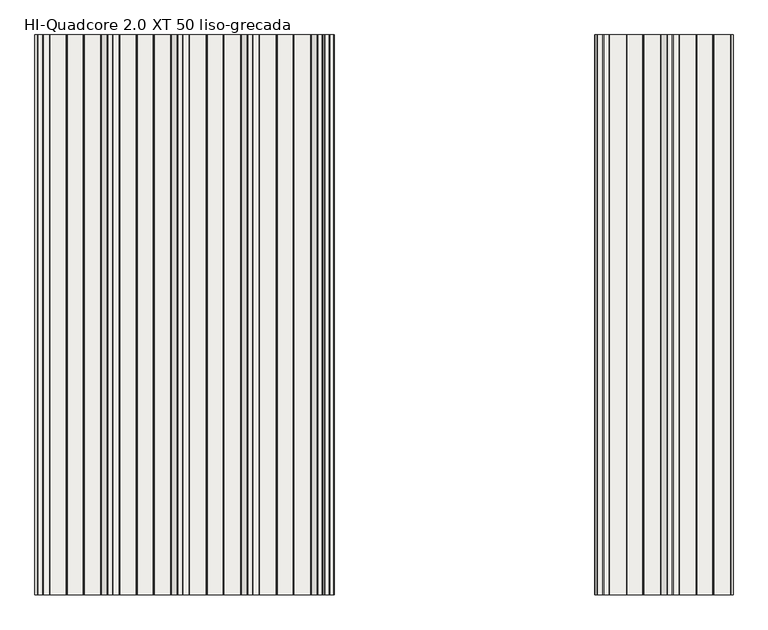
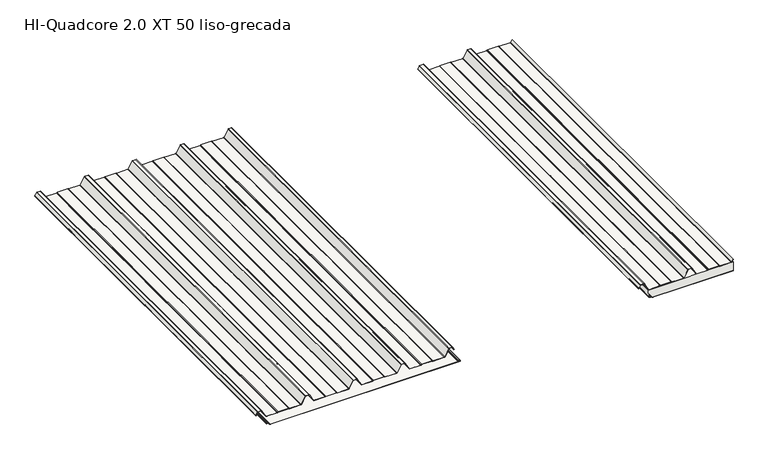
"""IFC4 building model written with IfcOpenShell, lengths in millimetres: slab geometry, HI_QuadCore2.0XT-XT DUAL : HI-Quadcore 2.0 XT 50 liso-grecada."""

from ifc_helpers import new_model, si_unit, point, frame, frame_2d, origin, place, context, project, spatial, polyline, circle_curve, trimmed, segment, composite_curve, outline, extrude, source, transform, mapped, element, save
from ifc_brep_helpers import plane_surface, cylinder_surface, revolved_surface, advanced_brep


def hi_quadcore_2_0_xt_50_liso_grecada_fe10ae16(model_context):
    return source(origin(), model_context, "Body", "SolidModel", [
        extrude(outline(composite_curve([segment(polyline([(88.1649405, 2138.5141429), (73.6579587, 2130.3539656)]), True, "CONTINUOUS"), segment(trimmed(circle_curve(frame_2d((73.0451321, 2131.443435)), 1.25), [point((73.6579587, 2130.3539656))], [point((72.689225, 2132.6416963))], False, "CARTESIAN"), True, "CONTINUOUS"), segment(polyline([(72.689225, 2132.6416963), (75.7359115, 2133.437141), (75.9380053, 2132.663088), (72.9074492, 2131.8718547)]), True, "CONTINUOUS"), segment(trimmed(circle_curve(frame_2d((73.0451321, 2131.443435)), 0.45), [point((72.9074492, 2131.8718547))], [point((73.2657497, 2131.051226))], True, "CARTESIAN"), True, "CONTINUOUS"), segment(polyline([(73.2657497, 2131.051226), (87.7727315, 2139.2114033)]), True, "CONTINUOUS"), segment(trimmed(circle_curve(frame_2d((86.4, 2141.6518148)), 2.8), [point((87.7727315, 2139.2114033))], [point((89.2, 2141.6518148))], True, "CARTESIAN"), True, "CONTINUOUS"), segment(polyline([(89.2, 2141.6518148), (89.2, 2158.9311117)]), True, "CONTINUOUS"), segment(trimmed(circle_curve(frame_2d((86.4, 2158.9311117)), 2.8), [point((89.2, 2158.9311117))], [point((87.5457267, 2161.4859719))], True, "CARTESIAN"), True, "CONTINUOUS"), segment(polyline([(87.5457267, 2161.4859719), (51.2048889, 2181.3052775)]), True, "CONTINUOUS"), segment(trimmed(circle_curve(frame_2d((53.0, 2184.6545425)), 3.8), [point((51.2048889, 2181.3052775))], [point((49.2, 2184.6545425))], False, "CARTESIAN"), True, "CONTINUOUS"), segment(polyline([(49.2, 2184.6545425), (49.2, 2242.4489557)]), True, "CONTINUOUS"), segment(trimmed(circle_curve(frame_2d((53.0, 2242.4489557)), 3.8), [point((49.2, 2242.4489557))], [point((49.6973596, 2244.328468))], False, "CARTESIAN"), True, "CONTINUOUS"), segment(polyline([(49.6973596, 2244.328468), (50.912055, 2246.4629056)]), True, "CONTINUOUS"), segment(trimmed(circle_curve(frame_2d((49.0, 2247.5510443)), 2.2), [point((50.912055, 2246.4629056))], [point((51.2, 2247.5510443))], True, "CARTESIAN"), True, "CONTINUOUS"), segment(polyline([(51.2, 2247.5510443), (51.2, 2302.4489557)]), True, "CONTINUOUS"), segment(trimmed(circle_curve(frame_2d((49.0, 2302.4489557)), 2.2), [point((51.2, 2302.4489557))], [point((50.912055, 2303.5370944))], True, "CARTESIAN"), True, "CONTINUOUS"), segment(polyline([(50.912055, 2303.5370944), (49.6973596, 2305.671532)]), True, "CONTINUOUS"), segment(trimmed(circle_curve(frame_2d((53.0, 2307.5510443)), 3.8), [point((49.6973596, 2305.671532))], [point((49.2, 2307.5510443))], False, "CARTESIAN"), True, "CONTINUOUS"), segment(polyline([(49.2, 2307.5510443), (49.2, 2365.7454575)]), True, "CONTINUOUS"), segment(trimmed(circle_curve(frame_2d((53.0, 2365.7454575)), 3.8), [point((49.2, 2365.7454575))], [point((51.1370073, 2369.0574446))], False, "CARTESIAN"), True, "CONTINUOUS"), segment(polyline([(51.1370073, 2369.0574446), (88.0785747, 2389.8370763)]), True, "CONTINUOUS"), segment(trimmed(circle_curve(frame_2d((87.0, 2391.7545425)), 2.2), [point((88.0785747, 2389.8370763))], [point((89.2, 2391.7545425))], True, "CARTESIAN"), True, "CONTINUOUS"), segment(polyline([(89.2, 2391.7545425), (89.2, 2408.2454575)]), True, "CONTINUOUS"), segment(trimmed(circle_curve(frame_2d((87.0, 2408.2454575)), 2.2), [point((89.2, 2408.2454575))], [point((88.0785747, 2410.1629237))], True, "CARTESIAN"), True, "CONTINUOUS"), segment(polyline([(88.0785747, 2410.1629237), (51.1370073, 2430.9425554)]), True, "CONTINUOUS"), segment(trimmed(circle_curve(frame_2d((53.0, 2434.2545425)), 3.8), [point((51.1370073, 2430.9425554))], [point((49.2, 2434.2545425))], False, "CARTESIAN"), True, "CONTINUOUS"), segment(polyline([(49.2, 2434.2545425), (49.2, 2492.4489557)]), True, "CONTINUOUS"), segment(trimmed(circle_curve(frame_2d((53.0, 2492.4489557)), 3.8), [point((49.2, 2492.4489557))], [point((49.6973596, 2494.328468))], False, "CARTESIAN"), True, "CONTINUOUS"), segment(polyline([(49.6973596, 2494.328468), (50.912055, 2496.4629056)]), True, "CONTINUOUS"), segment(trimmed(circle_curve(frame_2d((49.0, 2497.5510443)), 2.2), [point((50.912055, 2496.4629056))], [point((51.2, 2497.5510443))], True, "CARTESIAN"), True, "CONTINUOUS"), segment(polyline([(51.2, 2497.5510443), (51.2, 2552.4489557)]), True, "CONTINUOUS"), segment(trimmed(circle_curve(frame_2d((49.0, 2552.4489557)), 2.2), [point((51.2, 2552.4489557))], [point((50.912055, 2553.5370944))], True, "CARTESIAN"), True, "CONTINUOUS"), segment(polyline([(50.912055, 2553.5370944), (49.6973596, 2555.671532)]), True, "CONTINUOUS"), segment(trimmed(circle_curve(frame_2d((53.0, 2557.5510443)), 3.8), [point((49.6973596, 2555.671532))], [point((49.2, 2557.5510443))], False, "CARTESIAN"), True, "CONTINUOUS"), segment(polyline([(49.2, 2557.5510443), (49.2, 2615.7454575)]), True, "CONTINUOUS"), segment(trimmed(circle_curve(frame_2d((53.0, 2615.7454575)), 3.8), [point((49.2, 2615.7454575))], [point((51.1370073, 2619.0574446))], False, "CARTESIAN"), True, "CONTINUOUS"), segment(polyline([(51.1370073, 2619.0574446), (61.5197374, 2624.8977303), (63.1515205, 2624.8977303), (51.5292163, 2618.3601842)]), True, "CONTINUOUS"), segment(trimmed(circle_curve(frame_2d((53.0, 2615.7454575)), 3.0), [point((51.5292163, 2618.3601842))], [point((50.0, 2615.7454575))], True, "CARTESIAN"), True, "CONTINUOUS"), segment(polyline([(50.0, 2615.7454575), (50.0, 2557.5510443)]), True, "CONTINUOUS"), segment(trimmed(circle_curve(frame_2d((53.0, 2557.5510443)), 3.0), [point((50.0, 2557.5510443))], [point((50.3926523, 2556.0672188))], True, "CARTESIAN"), True, "CONTINUOUS"), segment(polyline([(50.3926523, 2556.0672188), (51.6073477, 2553.9327812)]), True, "CONTINUOUS"), segment(trimmed(circle_curve(frame_2d((49.0, 2552.4489557)), 3.0), [point((51.6073477, 2553.9327812))], [point((52.0, 2552.4489557))], False, "CARTESIAN"), True, "CONTINUOUS"), segment(polyline([(52.0, 2552.4489557), (52.0, 2497.5510443)]), True, "CONTINUOUS"), segment(trimmed(circle_curve(frame_2d((49.0, 2497.5510443)), 3.0), [point((52.0, 2497.5510443))], [point((51.6073477, 2496.0672188))], False, "CARTESIAN"), True, "CONTINUOUS"), segment(polyline([(51.6073477, 2496.0672188), (50.3926523, 2493.9327812)]), True, "CONTINUOUS"), segment(trimmed(circle_curve(frame_2d((53.0, 2492.4489557)), 3.0), [point((50.3926523, 2493.9327812))], [point((50.0, 2492.4489557))], True, "CARTESIAN"), True, "CONTINUOUS"), segment(polyline([(50.0, 2492.4489557), (50.0, 2434.2545425)]), True, "CONTINUOUS"), segment(trimmed(circle_curve(frame_2d((53.0, 2434.2545425)), 3.0), [point((50.0, 2434.2545425))], [point((51.5292163, 2431.6398158))], True, "CARTESIAN"), True, "CONTINUOUS"), segment(polyline([(51.5292163, 2431.6398158), (88.4707837, 2410.8601842)]), True, "CONTINUOUS"), segment(trimmed(circle_curve(frame_2d((87.0, 2408.2454575)), 3.0), [point((88.4707837, 2410.8601842))], [point((90.0, 2408.2454575))], False, "CARTESIAN"), True, "CONTINUOUS"), segment(polyline([(90.0, 2408.2454575), (90.0, 2391.7545425)]), True, "CONTINUOUS"), segment(trimmed(circle_curve(frame_2d((87.0, 2391.7545425)), 3.0), [point((90.0, 2391.7545425))], [point((88.4707837, 2389.1398158))], False, "CARTESIAN"), True, "CONTINUOUS"), segment(polyline([(88.4707837, 2389.1398158), (51.5292163, 2368.3601842)]), True, "CONTINUOUS"), segment(trimmed(circle_curve(frame_2d((53.0, 2365.7454575)), 3.0), [point((51.5292163, 2368.3601842))], [point((50.0, 2365.7454575))], True, "CARTESIAN"), True, "CONTINUOUS"), segment(polyline([(50.0, 2365.7454575), (50.0, 2307.5510443)]), True, "CONTINUOUS"), segment(trimmed(circle_curve(frame_2d((53.0, 2307.5510443)), 3.0), [point((50.0, 2307.5510443))], [point((50.3926523, 2306.0672188))], True, "CARTESIAN"), True, "CONTINUOUS"), segment(polyline([(50.3926523, 2306.0672188), (51.6073477, 2303.9327812)]), True, "CONTINUOUS"), segment(trimmed(circle_curve(frame_2d((49.0, 2302.4489557)), 3.0), [point((51.6073477, 2303.9327812))], [point((52.0, 2302.4489557))], False, "CARTESIAN"), True, "CONTINUOUS"), segment(polyline([(52.0, 2302.4489557), (52.0, 2247.5510443)]), True, "CONTINUOUS"), segment(trimmed(circle_curve(frame_2d((49.0, 2247.5510443)), 3.0), [point((52.0, 2247.5510443))], [point((51.6073477, 2246.0672188))], False, "CARTESIAN"), True, "CONTINUOUS"), segment(polyline([(51.6073477, 2246.0672188), (50.3926523, 2243.9327812)]), True, "CONTINUOUS"), segment(trimmed(circle_curve(frame_2d((53.0, 2242.4489557)), 3.0), [point((50.3926523, 2243.9327812))], [point((50.0, 2242.4489557))], True, "CARTESIAN"), True, "CONTINUOUS"), segment(polyline([(50.0, 2242.4489557), (50.0, 2184.6545425)]), True, "CONTINUOUS"), segment(trimmed(circle_curve(frame_2d((53.0, 2184.6545425)), 3.0), [point((50.0, 2184.6545425))], [point((51.5852209, 2182.0090935))], True, "CARTESIAN"), True, "CONTINUOUS"), segment(polyline([(51.5852209, 2182.0090935), (87.9031732, 2162.2022691)]), True, "CONTINUOUS"), segment(trimmed(circle_curve(frame_2d((86.4, 2158.9311117)), 3.6), [point((87.9031732, 2162.2022691))], [point((90.0, 2158.9311117))], False, "CARTESIAN"), True, "CONTINUOUS"), segment(polyline([(90.0, 2158.9311117), (90.0, 2141.6518148)]), True, "CONTINUOUS"), segment(trimmed(circle_curve(frame_2d((86.4, 2141.6518148)), 3.6), [point((90.0, 2141.6518148))], [point((88.1649405, 2138.5141429))], False, "CARTESIAN"), True, "CONTINUOUS")], self_intersect=False)), frame((0.0, 0.0, 0.0), z_axis=(0.0, 1.0, 0.0), x_axis=(0.0, 0.0, 1.0)), (0.0, 0.0, 1.0), 2000.0),
        extrude(outline(composite_curve([segment(trimmed(circle_curve(frame_2d((11.9759207, 2187.8456418)), 2.0), [point((13.390095, 2186.4313891))], [point((11.9758652, 2185.8456418))], False, "CARTESIAN"), True, "CONTINUOUS"), segment(polyline([(11.9758652, 2185.8456418), (8.333684, 2185.8457428)]), True, "CONTINUOUS"), segment(trimmed(circle_curve(frame_2d((8.3337394, 2187.8457428)), 2.0), [point((8.333684, 2185.8457428))], [point((6.3390802, 2187.6996787))], False, "CARTESIAN"), True, "CONTINUOUS"), segment(polyline([(6.3390802, 2187.6996787), (5.5769243, 2198.1077232)]), True, "CONTINUOUS"), segment(trimmed(circle_curve(frame_2d((3.5874027, 2197.9032632)), 2.0), [point((5.5769243, 2198.1077232))], [point((3.5874582, 2199.9032632))], True, "CARTESIAN"), True, "CONTINUOUS"), segment(polyline([(3.5874582, 2199.9032632), (1.9861383, 2199.9033076)]), True, "CONTINUOUS"), segment(trimmed(circle_curve(frame_2d((1.9861938, 2201.9033076)), 2.0), [point((1.9861383, 2199.9033076))], [point((-0.0138062, 2201.903363))], False, "CARTESIAN"), True, "CONTINUOUS"), segment(polyline([(-0.0138062, 2201.903363), (-0.0020796, 2624.8977303), (0.7979204, 2624.8977303), (0.7861938, 2201.9033408)]), True, "CONTINUOUS"), segment(trimmed(circle_curve(frame_2d((1.9861938, 2201.9033076)), 1.2), [point((0.7861938, 2201.9033408))], [point((1.9861605, 2200.7033076))], True, "CARTESIAN"), True, "CONTINUOUS"), segment(polyline([(1.9861605, 2200.7033076), (3.5874804, 2200.7032632)]), True, "CONTINUOUS"), segment(trimmed(circle_curve(frame_2d((3.5874027, 2197.9032632)), 2.8), [point((3.5874804, 2200.7032632))], [point((6.3740035, 2198.1768616))], False, "CARTESIAN"), True, "CONTINUOUS"), segment(polyline([(6.3740035, 2198.1768616), (7.1369439, 2187.7581044)]), True, "CONTINUOUS"), segment(trimmed(circle_curve(frame_2d((8.3337394, 2187.8457428)), 1.2), [point((7.1369439, 2187.7581044))], [point((8.3337062, 2186.6457428))], True, "CARTESIAN"), True, "CONTINUOUS"), segment(polyline([(8.3337062, 2186.6457428), (11.9758874, 2186.6456418)]), True, "CONTINUOUS"), segment(trimmed(circle_curve(frame_2d((11.9759207, 2187.8456418)), 1.2), [point((11.9758874, 2186.6456418))], [point((12.8244253, 2186.9970902))], True, "CARTESIAN"), True, "CONTINUOUS"), segment(polyline([(12.8244253, 2186.9970902), (14.9306702, 2189.1032183), (15.4963556, 2188.5375329), (13.390095, 2186.4313891)]), True, "CONTINUOUS")], self_intersect=False)), frame((0.0, 0.0, 0.0), z_axis=(0.0, 1.0, 0.0), x_axis=(0.0, 0.0, 1.0)), (0.0, 0.0, 1.0), 2000.0),
        extrude(outline(composite_curve([segment(polyline([(14.9306702, 2189.1032183), (12.8244253, 2186.9970902)]), True, "CONTINUOUS"), segment(trimmed(circle_curve(frame_2d((11.9759207, 2187.8456418)), 1.2), [point((12.8244253, 2186.9970902))], [point((11.9758874, 2186.6456418))], False, "CARTESIAN"), True, "CONTINUOUS"), segment(polyline([(11.9758874, 2186.6456418), (8.3337062, 2186.6457428)]), True, "CONTINUOUS"), segment(trimmed(circle_curve(frame_2d((8.3337394, 2187.8457428)), 1.2), [point((8.3337062, 2186.6457428))], [point((7.1369439, 2187.7581044))], False, "CARTESIAN"), True, "CONTINUOUS"), segment(polyline([(7.1369439, 2187.7581044), (6.3740035, 2198.1768616)]), True, "CONTINUOUS"), segment(trimmed(circle_curve(frame_2d((3.5874027, 2197.9032632)), 2.8), [point((6.3740035, 2198.1768616))], [point((3.5874804, 2200.7032632))], True, "CARTESIAN"), True, "CONTINUOUS"), segment(polyline([(3.5874804, 2200.7032632), (1.9861605, 2200.7033076)]), True, "CONTINUOUS"), segment(trimmed(circle_curve(frame_2d((1.9861938, 2201.9033076)), 1.2), [point((1.9861605, 2200.7033076))], [point((0.7861938, 2201.9033408))], False, "CARTESIAN"), True, "CONTINUOUS"), segment(polyline([(0.7861938, 2201.9033408), (0.7979204, 2624.8977303), (48.0, 2624.8977303), (48.0, 2181.5343182), (7.0308356, 2184.4622222), (7.2414508, 2185.8457731), (11.9758652, 2185.8456418)]), True, "CONTINUOUS"), segment(trimmed(circle_curve(frame_2d((11.9759207, 2187.8456418)), 2.0), [point((11.9758652, 2185.8456418))], [point((13.390095, 2186.4313891))], True, "CARTESIAN"), True, "CONTINUOUS"), segment(polyline([(13.390095, 2186.4313891), (15.4963556, 2188.5375329), (14.9306702, 2189.1032183)]), True, "CONTINUOUS")], self_intersect=False)), frame((0.0, 0.0, 0.0), z_axis=(0.0, 1.0, 0.0), x_axis=(0.0, 0.0, 1.0)), (0.0, 0.0, 1.0), 2000.0),
        advanced_brep(
        [(186.4313891, 0.0, 13.3795578), (185.8456418, 0.0, 11.9654043), (185.8456037, 0.0, 8.2995811), (187.6996787, 0.0, 6.328543), (198.1077232, 0.0, 5.5663871), (199.9032632, 0.0, 3.5769209), (199.9033076, 0.0, 1.9756011), (201.903363, 0.0, -0.0243435), (1197.9162803, 0.0, 0.003269), (1199.9046779, 0.0, 2.0032908), (1199.904653, 0.0, 2.9012893), (1198.0077486, 0.0, 4.8985749), (1186.1928118, 0.0, 5.7933732), (1184.3438482, 0.0, 7.7876066), (1184.3437386, 0.0, 11.7402379), (1183.757913, 0.0, 13.1544352), (1182.3436602, 0.0, 14.5686095), (1181.7779748, 0.0, 14.0029241), (1183.1922433, 0.0, 12.5887341), (1183.5437386, 0.0, 11.7402157), (1183.5438482, 0.0, 7.7875844), (1186.1323972, 0.0, 4.9956577), (1197.958132, 0.0, 4.1000416), (1199.104653, 0.0, 2.9012672), (1199.1046779, 0.0, 2.0032686), (1197.9136554, 0.0, 0.8032689), (201.9033408, 0.0, 0.7756565), (200.7033076, 0.0, 1.9756233), (200.7032632, 0.0, 3.5769431), (198.1768616, 0.0, 6.3634663), (187.7581044, 0.0, 7.1264067), (186.6457428, 0.0, 8.3231689), (186.6456418, 0.0, 11.965396), (186.9970902, 0.0, 12.8138881), (189.1032183, 0.0, 14.920133), (188.5375329, 0.0, 15.4858184), (186.4313891, 2000.0, 13.3795578), (188.5375329, 2000.0, 15.4858184), (189.1032183, 2000.0, 14.920133), (186.9970902, 2000.0, 12.8138881), (186.6456418, 2000.0, 11.965396), (186.6456037, 2000.0, 8.2995728), (187.7581044, 2000.0, 7.1264067), (198.1768616, 2000.0, 6.3634663), (200.7032632, 2000.0, 3.5769431), (200.7033076, 2000.0, 1.9756233), (201.9033408, 2000.0, 0.7756565), (1197.9136554, 2000.0, 0.8032689), (1199.1046779, 2000.0, 2.0032686), (1199.104653, 2000.0, 2.9012672), (1197.958132, 2000.0, 4.1000416), (1186.1323972, 2000.0, 4.9956577), (1183.5438482, 2000.0, 7.7875844), (1183.5437386, 2000.0, 11.7402157), (1183.1922433, 2000.0, 12.5887341), (1181.7779748, 2000.0, 14.0029241), (1182.3436602, 2000.0, 14.5686095), (1183.757913, 2000.0, 13.1544352), (1184.3437386, 2000.0, 11.7402379), (1184.3438482, 2000.0, 7.7876066), (1186.1928118, 2000.0, 5.7933732), (1198.0077486, 2000.0, 4.8985749), (1199.904653, 2000.0, 2.9012893), (1199.9046779, 2000.0, 2.0032908), (1197.9162803, 2000.0, 0.003269), (201.903363, 2000.0, -0.0243435), (199.9033076, 2000.0, 1.9756011), (199.9032632, 2000.0, 3.5769209), (198.1077232, 2000.0, 5.5663871), (187.6996787, 2000.0, 6.328543), (185.8457428, 2000.0, 8.3231467), (185.8456418, 2000.0, 11.9654043)],
        [
            (0, 1, circle_curve(frame((187.8456418, 0.0, 11.9653834), z_axis=(0.0, -1.0, 0.0), x_axis=(1.0, 0.0, 0.0)), 2.0)),
            (1, 2),
            (2, 3, circle_curve(frame((187.8457428, 0.0, 8.3232022), z_axis=(0.0, -1.0, 0.0), x_axis=(1.0, 0.0, 0.0)), 2.0)),
            (3, 4),
            (4, 5, circle_curve(frame((197.9032632, 0.0, 3.5768655), z_axis=(0.0, 1.0, 0.0), x_axis=(1.0, 0.0, 0.0)), 2.0)),
            (5, 6),
            (6, 7, circle_curve(frame((201.9033076, 0.0, 1.9756565), z_axis=(0.0, -1.0, 0.0), x_axis=(1.0, 0.0, 0.0)), 2.0)),
            (7, 8),
            (8, 9, circle_curve(frame((1197.9046779, 0.0, 2.0032353), z_axis=(0.0, -1.0, 0.0), x_axis=(1.0, 0.0, 0.0)), 2.0)),
            (9, 10),
            (10, 11, circle_curve(frame((1197.904653, 0.0, 2.9012339), z_axis=(0.0, -1.0, 0.0), x_axis=(1.0, 0.0, 0.0)), 2.0)),
            (11, 12),
            (12, 13, circle_curve(frame((1186.3438482, 0.0, 7.7876621), z_axis=(0.0, 1.0, 0.0), x_axis=(1.0, 0.0, 0.0)), 2.0)),
            (13, 14),
            (14, 15, circle_curve(frame((1182.3437386, 0.0, 11.7401824), z_axis=(0.0, -1.0, 0.0), x_axis=(1.0, 0.0, 0.0)), 2.0)),
            (15, 16),
            (16, 17),
            (17, 18),
            (18, 19, circle_curve(frame((1182.3437386, 0.0, 11.7401824), z_axis=(0.0, 1.0, 0.0), x_axis=(1.0, 0.0, 0.0)), 1.2)),
            (19, 20),
            (20, 21, circle_curve(frame((1186.3438482, 0.0, 7.7876621), z_axis=(0.0, -1.0, 0.0), x_axis=(1.0, 0.0, 0.0)), 2.8)),
            (21, 22),
            (22, 23, circle_curve(frame((1197.904653, 0.0, 2.9012339), z_axis=(0.0, 1.0, 0.0), x_axis=(1.0, 0.0, 0.0)), 1.2)),
            (23, 24),
            (24, 25, circle_curve(frame((1197.9046779, 0.0, 2.0032353), z_axis=(0.0, 1.0, 0.0), x_axis=(1.0, 0.0, 0.0)), 1.2)),
            (25, 26),
            (26, 27, circle_curve(frame((201.9033076, 0.0, 1.9756565), z_axis=(0.0, 1.0, 0.0), x_axis=(1.0, 0.0, 0.0)), 1.2)),
            (27, 28),
            (28, 29, circle_curve(frame((197.9032632, 0.0, 3.5768655), z_axis=(0.0, -1.0, 0.0), x_axis=(1.0, 0.0, 0.0)), 2.8)),
            (29, 30),
            (30, 31, circle_curve(frame((187.8457428, 0.0, 8.3232022), z_axis=(0.0, 1.0, 0.0), x_axis=(1.0, 0.0, 0.0)), 1.2)),
            (31, 32),
            (32, 33, circle_curve(frame((187.8456418, 0.0, 11.9653834), z_axis=(0.0, 1.0, 0.0), x_axis=(1.0, 0.0, 0.0)), 1.2)),
            (33, 34),
            (34, 35),
            (35, 0),
            (36, 37),
            (37, 38),
            (38, 39),
            (39, 40, circle_curve(frame((187.8456418, 2000.0, 11.9653834), z_axis=(0.0, -1.0, 0.0), x_axis=(1.0, 0.0, 0.0)), 1.2)),
            (40, 41),
            (41, 42, circle_curve(frame((187.8457428, 2000.0, 8.3232022), z_axis=(0.0, -1.0, 0.0), x_axis=(1.0, 0.0, 0.0)), 1.2)),
            (42, 43),
            (43, 44, circle_curve(frame((197.9032632, 2000.0, 3.5768655), z_axis=(0.0, 1.0, 0.0), x_axis=(1.0, 0.0, 0.0)), 2.8)),
            (44, 45),
            (45, 46, circle_curve(frame((201.9033076, 2000.0, 1.9756565), z_axis=(0.0, -1.0, 0.0), x_axis=(1.0, 0.0, 0.0)), 1.2)),
            (46, 47),
            (47, 48, circle_curve(frame((1197.9046779, 2000.0, 2.0032353), z_axis=(0.0, -1.0, 0.0), x_axis=(1.0, 0.0, 0.0)), 1.2)),
            (48, 49),
            (49, 50, circle_curve(frame((1197.904653, 2000.0, 2.9012339), z_axis=(0.0, -1.0, 0.0), x_axis=(1.0, 0.0, 0.0)), 1.2)),
            (50, 51),
            (51, 52, circle_curve(frame((1186.3438482, 2000.0, 7.7876621), z_axis=(0.0, 1.0, 0.0), x_axis=(1.0, 0.0, 0.0)), 2.8)),
            (52, 53),
            (53, 54, circle_curve(frame((1182.3437386, 2000.0, 11.7401824), z_axis=(0.0, -1.0, 0.0), x_axis=(1.0, 0.0, 0.0)), 1.2)),
            (54, 55),
            (55, 56),
            (56, 57),
            (57, 58, circle_curve(frame((1182.3437386, 2000.0, 11.7401824), z_axis=(0.0, 1.0, 0.0), x_axis=(1.0, 0.0, 0.0)), 2.0)),
            (58, 59),
            (59, 60, circle_curve(frame((1186.3438482, 2000.0, 7.7876621), z_axis=(0.0, -1.0, 0.0), x_axis=(1.0, 0.0, 0.0)), 2.0)),
            (60, 61),
            (61, 62, circle_curve(frame((1197.904653, 2000.0, 2.9012339), z_axis=(0.0, 1.0, 0.0), x_axis=(1.0, 0.0, 0.0)), 2.0)),
            (62, 63),
            (63, 64, circle_curve(frame((1197.9046779, 2000.0, 2.0032353), z_axis=(0.0, 1.0, 0.0), x_axis=(1.0, 0.0, 0.0)), 2.0)),
            (64, 65),
            (65, 66, circle_curve(frame((201.9033076, 2000.0, 1.9756565), z_axis=(0.0, 1.0, 0.0), x_axis=(1.0, 0.0, 0.0)), 2.0)),
            (66, 67),
            (67, 68, circle_curve(frame((197.9032632, 2000.0, 3.5768655), z_axis=(0.0, -1.0, 0.0), x_axis=(1.0, 0.0, 0.0)), 2.0)),
            (68, 69),
            (69, 70, circle_curve(frame((187.8457428, 2000.0, 8.3232022), z_axis=(0.0, 1.0, 0.0), x_axis=(1.0, 0.0, 0.0)), 2.0)),
            (70, 71),
            (71, 36, circle_curve(frame((187.8456418, 2000.0, 11.9653834), z_axis=(0.0, 1.0, 0.0), x_axis=(1.0, 0.0, 0.0)), 2.0)),
            (0, 36),
            (71, 1),
            (70, 2),
            (69, 3),
            (68, 4),
            (67, 5),
            (66, 6),
            (65, 7),
            (64, 8),
            (63, 9),
            (62, 10),
            (61, 11),
            (60, 12),
            (59, 13),
            (58, 14),
            (57, 15),
            (56, 16),
            (55, 17),
            (54, 18),
            (53, 19),
            (52, 20),
            (51, 21),
            (50, 22),
            (49, 23),
            (48, 24),
            (47, 25),
            (46, 26),
            (45, 27),
            (44, 28),
            (43, 29),
            (42, 30),
            (41, 31),
            (40, 32),
            (39, 33),
            (38, 34),
            (37, 35),
        ],
        [
            plane_surface(frame((189.8456418, 0.0, 11.9653834), z_axis=(0.0, -1.0, 0.0), x_axis=(0.0, 0.0, 1.0))),
            plane_surface(frame((189.8456418, 2000.0, 11.9653834), z_axis=(0.0, 1.0, 0.0), x_axis=(0.0, 0.0, -1.0))),
            cylinder_surface(frame((187.8456418, 2000.0, 11.9653834), z_axis=(0.0, -1.0, 0.0), x_axis=(1.0, 0.0, 0.0)), 2.0),
            plane_surface(frame((185.8456418, 0.0, 11.9654043), z_axis=(-0.9999999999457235, 0.0, 1.041887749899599e-05), x_axis=(0.0, 1.0, 0.0))),
            cylinder_surface(frame((187.8457428, 2000.0, 8.3232022), z_axis=(0.0, -1.0, 0.0), x_axis=(1.0, 0.0, 0.0)), 2.0),
            plane_surface(frame((187.6996787, 0.0, 6.328543), z_axis=(-0.07303203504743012, 0.0, -0.9973295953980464), x_axis=(0.0, 1.0, 0.0))),
            revolved_surface(polyline([(199.9032632, 2000.0, 3.5768655), (199.9032632, 0.0, 3.5768655)]), (197.9032632, 2000.0, 3.5768655), (0.0, 1.0, 0.0)),
            plane_surface(frame((199.9032632, 0.0, 3.5769209), z_axis=(-0.9999999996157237, 0.0, -2.7722781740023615e-05), x_axis=(0.0, 1.0, 0.0))),
            cylinder_surface(frame((201.9033076, 2000.0, 1.9756565), z_axis=(0.0, -1.0, 0.0), x_axis=(1.0, 0.0, 0.0)), 2.0),
            plane_surface(frame((201.903363, 0.0, -0.0243435), z_axis=(2.772298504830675e-05, 0.0, -0.9999999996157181), x_axis=(0.0, 1.0, 0.0))),
            cylinder_surface(frame((1197.9046779, 2000.0, 2.0032353), z_axis=(0.0, -1.0, 0.0), x_axis=(1.0, 0.0, 0.0)), 2.0),
            plane_surface(frame((1199.9046779, 0.0, 2.0032908), z_axis=(0.9999999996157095, 0.0, 2.7723295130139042e-05), x_axis=(0.0, 1.0, 0.0))),
            cylinder_surface(frame((1197.904653, 2000.0, 2.9012339), z_axis=(0.0, -1.0, 0.0), x_axis=(1.0, 0.0, 0.0)), 2.0),
            plane_surface(frame((1198.0077486, 0.0, 4.8985749), z_axis=(0.07551822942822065, 0.0, 0.9971444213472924), x_axis=(0.0, 1.0, 0.0))),
            revolved_surface(polyline([(1188.3438482, 2000.0, 7.7876621), (1188.3438482, 0.0, 7.7876621)]), (1186.3438482, 2000.0, 7.7876621), (0.0, 1.0, 0.0)),
            plane_surface(frame((1184.3438482, 0.0, 7.7876066), z_axis=(0.9999999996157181, 0.0, 2.7722984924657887e-05), x_axis=(0.0, 1.0, 0.0))),
            cylinder_surface(frame((1182.3437386, 2000.0, 11.7401824), z_axis=(0.0, -1.0, 0.0), x_axis=(1.0, 0.0, 0.0)), 2.0),
            plane_surface(frame((1183.757913, 0.0, 13.1544352), z_axis=(0.7070871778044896, 0.0, 0.7071263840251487), x_axis=(0.0, 1.0, 0.0))),
            plane_surface(frame((1182.3436602, 0.0, 14.5686095), z_axis=(-0.7071067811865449, 0.0, 0.7071067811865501), x_axis=(0.0, 1.0, 0.0))),
            plane_surface(frame((1181.7779748, 0.0, 14.0029241), z_axis=(-0.7070871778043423, 0.0, -0.707126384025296), x_axis=(0.0, 1.0, 0.0))),
            revolved_surface(polyline([(1183.5437386, 2000.0, 11.7401824), (1183.5437386, 0.0, 11.7401824)]), (1182.3437386, 2000.0, 11.7401824), (0.0, 1.0, 0.0)),
            plane_surface(frame((1183.5437386, 0.0, 11.7402157), z_axis=(-0.9999999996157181, 0.0, -2.7722985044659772e-05), x_axis=(0.0, 1.0, 0.0))),
            cylinder_surface(frame((1186.3438482, 2000.0, 7.7876621), z_axis=(0.0, -1.0, 0.0), x_axis=(1.0, 0.0, 0.0)), 2.8),
            plane_surface(frame((1186.1323972, 0.0, 4.9956577), z_axis=(-0.07551822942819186, 0.0, -0.9971444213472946), x_axis=(0.0, 1.0, 0.0))),
            revolved_surface(polyline([(1199.104653, 2000.0, 2.9012339), (1199.104653, 0.0, 2.9012339)]), (1197.904653, 2000.0, 2.9012339), (0.0, 1.0, 0.0)),
            plane_surface(frame((1199.104653, 0.0, 2.9012672), z_axis=(-0.9999999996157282, 0.0, -2.7722622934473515e-05), x_axis=(0.0, 1.0, 0.0))),
            revolved_surface(polyline([(1199.1046779, 2000.0, 2.0032353), (1199.1046779, 0.0, 2.0032353)]), (1197.9046779, 2000.0, 2.0032353), (0.0, 1.0, 0.0)),
            plane_surface(frame((1197.9136554, 0.0, 0.8032689), z_axis=(-2.7722985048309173e-05, 0.0, 0.9999999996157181), x_axis=(0.0, 1.0, 0.0))),
            revolved_surface(polyline([(203.1033076, 2000.0, 1.9756565), (203.1033076, 0.0, 1.9756565)]), (201.9033076, 2000.0, 1.9756565), (0.0, 1.0, 0.0)),
            plane_surface(frame((200.7033076, 0.0, 1.9756233), z_axis=(0.9999999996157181, 0.0, 2.7722983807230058e-05), x_axis=(0.0, 1.0, 0.0))),
            cylinder_surface(frame((197.9032632, 2000.0, 3.5768655), z_axis=(0.0, -1.0, 0.0), x_axis=(1.0, 0.0, 0.0)), 2.8),
            plane_surface(frame((198.1768616, 0.0, 6.3634663), z_axis=(0.0730320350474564, 0.0, 0.9973295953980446), x_axis=(0.0, 1.0, 0.0))),
            revolved_surface(polyline([(189.0457428, 2000.0, 8.3232022), (189.0457428, 0.0, 8.3232022)]), (187.8457428, 2000.0, 8.3232022), (0.0, 1.0, 0.0)),
            plane_surface(frame((186.6456037, 0.0, 8.2995728), z_axis=(0.9999999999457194, 0.0, -1.0419274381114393e-05), x_axis=(0.0, 1.0, 0.0))),
            revolved_surface(polyline([(189.0456418, 2000.0, 11.9653834), (189.0456418, 0.0, 11.9653834)]), (187.8456418, 2000.0, 11.9653834), (0.0, 1.0, 0.0)),
            plane_surface(frame((186.9970902, 0.0, 12.8138881), z_axis=(0.7071263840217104, 0.0, -0.7070871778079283), x_axis=(0.0, 1.0, 0.0))),
            plane_surface(frame((189.1032183, 0.0, 14.920133), z_axis=(0.7071067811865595, 0.0, 0.7071067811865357), x_axis=(0.0, 1.0, 0.0))),
            plane_surface(frame((188.5375329, 0.0, 15.4858184), z_axis=(-0.7071263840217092, 0.0, 0.7070871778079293), x_axis=(0.0, 1.0, 0.0))),
        ],
        [
            (0, [[1, 2, 3, 4, 5, 6, 7, 8, 9, 10, 11, 12, 13, 14, 15, 16, 17, 18, 19, 20, 21, 22, 23, 24, 25, 26, 27, 28, 29, 30, 31, 32, 33, 34, 35, 36]]),
            (1, [[37, 38, 39, 40, 41, 42, 43, 44, 45, 46, 47, 48, 49, 50, 51, 52, 53, 54, 55, 56, 57, 58, 59, 60, 61, 62, 63, 64, 65, 66, 67, 68, 69, 70, 71, 72]]),
            (2, [[-1, 73, -72, 74]]),
            (3, [[-2, -74, -71, 75]]),
            (4, [[-3, -75, -70, 76]]),
            (5, [[-4, -76, -69, 77]]),
            (6, [[-5, -77, -68, 78]]),
            (7, [[-6, -78, -67, 79]]),
            (8, [[-7, -79, -66, 80]]),
            (9, [[-8, -80, -65, 81]]),
            (10, [[-9, -81, -64, 82]]),
            (11, [[-10, -82, -63, 83]]),
            (12, [[-11, -83, -62, 84]]),
            (13, [[-12, -84, -61, 85]]),
            (14, [[-13, -85, -60, 86]]),
            (15, [[-14, -86, -59, 87]]),
            (16, [[-15, -87, -58, 88]]),
            (17, [[-16, -88, -57, 89]]),
            (18, [[-17, -89, -56, 90]]),
            (19, [[-18, -90, -55, 91]]),
            (20, [[-19, -91, -54, 92]]),
            (21, [[-20, -92, -53, 93]]),
            (22, [[-21, -93, -52, 94]]),
            (23, [[-22, -94, -51, 95]]),
            (24, [[-23, -95, -50, 96]]),
            (25, [[-24, -96, -49, 97]]),
            (26, [[-25, -97, -48, 98]]),
            (27, [[-26, -98, -47, 99]]),
            (28, [[-27, -99, -46, 100]]),
            (29, [[-28, -100, -45, 101]]),
            (30, [[-29, -101, -44, 102]]),
            (31, [[-30, -102, -43, 103]]),
            (32, [[-31, -103, -42, 104]]),
            (33, [[-32, -104, -41, 105]]),
            (34, [[-33, -105, -40, 106]]),
            (35, [[-34, -106, -39, 107]]),
            (36, [[-35, -107, -38, 108]]),
            (37, [[-36, -108, -37, -73]]),
        ],
    ),
        extrude(outline(composite_curve([segment(polyline([(88.1649405, 138.5141429), (73.6579587, 130.3539656)]), True, "CONTINUOUS"), segment(trimmed(circle_curve(frame_2d((73.0451321, 131.443435)), 1.25), [point((73.6579587, 130.3539656))], [point((72.689225, 132.6416963))], False, "CARTESIAN"), True, "CONTINUOUS"), segment(polyline([(72.689225, 132.6416963), (75.7359115, 133.437141), (75.9380053, 132.663088), (72.9074492, 131.8718547)]), True, "CONTINUOUS"), segment(trimmed(circle_curve(frame_2d((73.0451321, 131.443435)), 0.45), [point((72.9074492, 131.8718547))], [point((73.2657497, 131.051226))], True, "CARTESIAN"), True, "CONTINUOUS"), segment(polyline([(73.2657497, 131.051226), (87.7727315, 139.2114033)]), True, "CONTINUOUS"), segment(trimmed(circle_curve(frame_2d((86.4, 141.6518148)), 2.8), [point((87.7727315, 139.2114033))], [point((89.2, 141.6518148))], True, "CARTESIAN"), True, "CONTINUOUS"), segment(polyline([(89.2, 141.6518148), (89.2, 158.9311117)]), True, "CONTINUOUS"), segment(trimmed(circle_curve(frame_2d((86.4, 158.9311117)), 2.8), [point((89.2, 158.9311117))], [point((87.5457267, 161.4859719))], True, "CARTESIAN"), True, "CONTINUOUS"), segment(polyline([(87.5457267, 161.4859719), (51.2048889, 181.3052775)]), True, "CONTINUOUS"), segment(trimmed(circle_curve(frame_2d((53.0, 184.6545425)), 3.8), [point((51.2048889, 181.3052775))], [point((49.2, 184.6545425))], False, "CARTESIAN"), True, "CONTINUOUS"), segment(polyline([(49.2, 184.6545425), (49.2, 242.4489557)]), True, "CONTINUOUS"), segment(trimmed(circle_curve(frame_2d((53.0, 242.4489557)), 3.8), [point((49.2, 242.4489557))], [point((49.6973596, 244.328468))], False, "CARTESIAN"), True, "CONTINUOUS"), segment(polyline([(49.6973596, 244.328468), (50.912055, 246.4629056)]), True, "CONTINUOUS"), segment(trimmed(circle_curve(frame_2d((49.0, 247.5510443)), 2.2), [point((50.912055, 246.4629056))], [point((51.2, 247.5510443))], True, "CARTESIAN"), True, "CONTINUOUS"), segment(polyline([(51.2, 247.5510443), (51.2, 302.4489557)]), True, "CONTINUOUS"), segment(trimmed(circle_curve(frame_2d((49.0, 302.4489557)), 2.2), [point((51.2, 302.4489557))], [point((50.912055, 303.5370944))], True, "CARTESIAN"), True, "CONTINUOUS"), segment(polyline([(50.912055, 303.5370944), (49.6973596, 305.671532)]), True, "CONTINUOUS"), segment(trimmed(circle_curve(frame_2d((53.0, 307.5510443)), 3.8), [point((49.6973596, 305.671532))], [point((49.2, 307.5510443))], False, "CARTESIAN"), True, "CONTINUOUS"), segment(polyline([(49.2, 307.5510443), (49.2, 365.7454575)]), True, "CONTINUOUS"), segment(trimmed(circle_curve(frame_2d((53.0, 365.7454575)), 3.8), [point((49.2, 365.7454575))], [point((51.1370073, 369.0574446))], False, "CARTESIAN"), True, "CONTINUOUS"), segment(polyline([(51.1370073, 369.0574446), (88.0785747, 389.8370763)]), True, "CONTINUOUS"), segment(trimmed(circle_curve(frame_2d((87.0, 391.7545425)), 2.2), [point((88.0785747, 389.8370763))], [point((89.2, 391.7545425))], True, "CARTESIAN"), True, "CONTINUOUS"), segment(polyline([(89.2, 391.7545425), (89.2, 408.2454575)]), True, "CONTINUOUS"), segment(trimmed(circle_curve(frame_2d((87.0, 408.2454575)), 2.2), [point((89.2, 408.2454575))], [point((88.0785747, 410.1629237))], True, "CARTESIAN"), True, "CONTINUOUS"), segment(polyline([(88.0785747, 410.1629237), (51.1370073, 430.9425554)]), True, "CONTINUOUS"), segment(trimmed(circle_curve(frame_2d((53.0, 434.2545425)), 3.8), [point((51.1370073, 430.9425554))], [point((49.2, 434.2545425))], False, "CARTESIAN"), True, "CONTINUOUS"), segment(polyline([(49.2, 434.2545425), (49.2, 492.4489557)]), True, "CONTINUOUS"), segment(trimmed(circle_curve(frame_2d((53.0, 492.4489557)), 3.8), [point((49.2, 492.4489557))], [point((49.6973596, 494.328468))], False, "CARTESIAN"), True, "CONTINUOUS"), segment(polyline([(49.6973596, 494.328468), (50.912055, 496.4629056)]), True, "CONTINUOUS"), segment(trimmed(circle_curve(frame_2d((49.0, 497.5510443)), 2.2), [point((50.912055, 496.4629056))], [point((51.2, 497.5510443))], True, "CARTESIAN"), True, "CONTINUOUS"), segment(polyline([(51.2, 497.5510443), (51.2, 552.4489557)]), True, "CONTINUOUS"), segment(trimmed(circle_curve(frame_2d((49.0, 552.4489557)), 2.2), [point((51.2, 552.4489557))], [point((50.912055, 553.5370944))], True, "CARTESIAN"), True, "CONTINUOUS"), segment(polyline([(50.912055, 553.5370944), (49.6973596, 555.671532)]), True, "CONTINUOUS"), segment(trimmed(circle_curve(frame_2d((53.0, 557.5510443)), 3.8), [point((49.6973596, 555.671532))], [point((49.2, 557.5510443))], False, "CARTESIAN"), True, "CONTINUOUS"), segment(polyline([(49.2, 557.5510443), (49.2, 615.7454575)]), True, "CONTINUOUS"), segment(trimmed(circle_curve(frame_2d((53.0, 615.7454575)), 3.8), [point((49.2, 615.7454575))], [point((51.1370073, 619.0574446))], False, "CARTESIAN"), True, "CONTINUOUS"), segment(polyline([(51.1370073, 619.0574446), (88.0785747, 639.8370763)]), True, "CONTINUOUS"), segment(trimmed(circle_curve(frame_2d((87.0, 641.7545425)), 2.2), [point((88.0785747, 639.8370763))], [point((89.2, 641.7545425))], True, "CARTESIAN"), True, "CONTINUOUS"), segment(polyline([(89.2, 641.7545425), (89.2, 658.2454575)]), True, "CONTINUOUS"), segment(trimmed(circle_curve(frame_2d((87.0, 658.2454575)), 2.2), [point((89.2, 658.2454575))], [point((88.0785747, 660.1629237))], True, "CARTESIAN"), True, "CONTINUOUS"), segment(polyline([(88.0785747, 660.1629237), (51.1370073, 680.9425554)]), True, "CONTINUOUS"), segment(trimmed(circle_curve(frame_2d((53.0, 684.2545425)), 3.8), [point((51.1370073, 680.9425554))], [point((49.2, 684.2545425))], False, "CARTESIAN"), True, "CONTINUOUS"), segment(polyline([(49.2, 684.2545425), (49.2, 742.4489557)]), True, "CONTINUOUS"), segment(trimmed(circle_curve(frame_2d((53.0, 742.4489557)), 3.8), [point((49.2, 742.4489557))], [point((49.6973596, 744.328468))], False, "CARTESIAN"), True, "CONTINUOUS"), segment(polyline([(49.6973596, 744.328468), (50.912055, 746.4629056)]), True, "CONTINUOUS"), segment(trimmed(circle_curve(frame_2d((49.0, 747.5510443)), 2.2), [point((50.912055, 746.4629056))], [point((51.2, 747.5510443))], True, "CARTESIAN"), True, "CONTINUOUS"), segment(polyline([(51.2, 747.5510443), (51.2, 802.4489557)]), True, "CONTINUOUS"), segment(trimmed(circle_curve(frame_2d((49.0, 802.4489557)), 2.2), [point((51.2, 802.4489557))], [point((50.912055, 803.5370944))], True, "CARTESIAN"), True, "CONTINUOUS"), segment(polyline([(50.912055, 803.5370944), (49.6973596, 805.671532)]), True, "CONTINUOUS"), segment(trimmed(circle_curve(frame_2d((53.0, 807.5510443)), 3.8), [point((49.6973596, 805.671532))], [point((49.2, 807.5510443))], False, "CARTESIAN"), True, "CONTINUOUS"), segment(polyline([(49.2, 807.5510443), (49.2, 865.7454575)]), True, "CONTINUOUS"), segment(trimmed(circle_curve(frame_2d((53.0, 865.7454575)), 3.8), [point((49.2, 865.7454575))], [point((51.1370073, 869.0574446))], False, "CARTESIAN"), True, "CONTINUOUS"), segment(polyline([(51.1370073, 869.0574446), (88.0785747, 889.8370763)]), True, "CONTINUOUS"), segment(trimmed(circle_curve(frame_2d((87.0, 891.7545425)), 2.2), [point((88.0785747, 889.8370763))], [point((89.2, 891.7545425))], True, "CARTESIAN"), True, "CONTINUOUS"), segment(polyline([(89.2, 891.7545425), (89.2, 908.2454575)]), True, "CONTINUOUS"), segment(trimmed(circle_curve(frame_2d((87.0, 908.2454575)), 2.2), [point((89.2, 908.2454575))], [point((88.0785747, 910.1629237))], True, "CARTESIAN"), True, "CONTINUOUS"), segment(polyline([(88.0785747, 910.1629237), (51.1370073, 930.9425554)]), True, "CONTINUOUS"), segment(trimmed(circle_curve(frame_2d((53.0, 934.2545425)), 3.8), [point((51.1370073, 930.9425554))], [point((49.2, 934.2545425))], False, "CARTESIAN"), True, "CONTINUOUS"), segment(polyline([(49.2, 934.2545425), (49.2, 992.4489557)]), True, "CONTINUOUS"), segment(trimmed(circle_curve(frame_2d((53.0, 992.4489557)), 3.8), [point((49.2, 992.4489557))], [point((49.6973596, 994.328468))], False, "CARTESIAN"), True, "CONTINUOUS"), segment(polyline([(49.6973596, 994.328468), (50.912055, 996.4629056)]), True, "CONTINUOUS"), segment(trimmed(circle_curve(frame_2d((49.0, 997.5510443)), 2.2), [point((50.912055, 996.4629056))], [point((51.2, 997.5510443))], True, "CARTESIAN"), True, "CONTINUOUS"), segment(polyline([(51.2, 997.5510443), (51.2, 1052.4489557)]), True, "CONTINUOUS"), segment(trimmed(circle_curve(frame_2d((49.0, 1052.4489557)), 2.2), [point((51.2, 1052.4489557))], [point((50.912055, 1053.5370944))], True, "CARTESIAN"), True, "CONTINUOUS"), segment(polyline([(50.912055, 1053.5370944), (49.6973596, 1055.671532)]), True, "CONTINUOUS"), segment(trimmed(circle_curve(frame_2d((53.0, 1057.5510443)), 3.8), [point((49.6973596, 1055.671532))], [point((49.2, 1057.5510443))], False, "CARTESIAN"), True, "CONTINUOUS"), segment(polyline([(49.2, 1057.5510443), (49.2, 1116.4208923)]), True, "CONTINUOUS"), segment(trimmed(circle_curve(frame_2d((53.0, 1116.4208923)), 3.8), [point((49.2, 1116.4208923))], [point((51.1583504, 1119.7447946))], False, "CARTESIAN"), True, "CONTINUOUS"), segment(polyline([(51.1583504, 1119.7447946), (88.0662182, 1140.1940602)]), True, "CONTINUOUS"), segment(trimmed(circle_curve(frame_2d((87.0, 1142.1184247)), 2.2), [point((88.0662182, 1140.1940602))], [point((89.2, 1142.1184247))], True, "CARTESIAN"), True, "CONTINUOUS"), segment(polyline([(89.2, 1142.1184247), (89.2, 1157.4945491)]), True, "CONTINUOUS"), segment(trimmed(circle_curve(frame_2d((87.0, 1157.4945491)), 2.2), [point((89.2, 1157.4945491))], [point((88.0785747, 1159.4120152))], True, "CARTESIAN"), True, "CONTINUOUS"), segment(polyline([(88.0785747, 1159.4120152), (77.5275176, 1165.3469849)]), True, "CONTINUOUS"), segment(trimmed(circle_curve(frame_2d((76.9392041, 1164.3010942)), 1.2), [point((77.5275176, 1165.3469849))], [point((76.3392623, 1165.3403583))], True, "CARTESIAN"), True, "CONTINUOUS"), segment(polyline([(76.3392623, 1165.3403583), (74.7281681, 1164.4103128), (74.3282068, 1165.1031555), (75.939301, 1166.033201)]), True, "CONTINUOUS"), segment(trimmed(circle_curve(frame_2d((76.9392041, 1164.3010942)), 2.0), [point((75.939301, 1166.033201))], [point((77.9197266, 1166.0442453))], False, "CARTESIAN"), True, "CONTINUOUS"), segment(polyline([(77.9197266, 1166.0442453), (88.4707837, 1160.1092757)]), True, "CONTINUOUS"), segment(trimmed(circle_curve(frame_2d((87.0, 1157.4945491)), 3.0), [point((88.4707837, 1160.1092757))], [point((90.0, 1157.4945491))], False, "CARTESIAN"), True, "CONTINUOUS"), segment(polyline([(90.0, 1157.4945491), (90.0, 1142.1184247)]), True, "CONTINUOUS"), segment(trimmed(circle_curve(frame_2d((87.0, 1142.1184247)), 3.0), [point((90.0, 1142.1184247))], [point((88.4539339, 1139.4942913))], False, "CARTESIAN"), True, "CONTINUOUS"), segment(polyline([(88.4539339, 1139.4942913), (51.5460661, 1119.0450257)]), True, "CONTINUOUS"), segment(trimmed(circle_curve(frame_2d((53.0, 1116.4208923)), 3.0), [point((51.5460661, 1119.0450257))], [point((50.0, 1116.4208923))], True, "CARTESIAN"), True, "CONTINUOUS"), segment(polyline([(50.0, 1116.4208923), (50.0, 1057.5510443)]), True, "CONTINUOUS"), segment(trimmed(circle_curve(frame_2d((53.0, 1057.5510443)), 3.0), [point((50.0, 1057.5510443))], [point((50.3926523, 1056.0672188))], True, "CARTESIAN"), True, "CONTINUOUS"), segment(polyline([(50.3926523, 1056.0672188), (51.6073477, 1053.9327812)]), True, "CONTINUOUS"), segment(trimmed(circle_curve(frame_2d((49.0, 1052.4489557)), 3.0), [point((51.6073477, 1053.9327812))], [point((52.0, 1052.4489557))], False, "CARTESIAN"), True, "CONTINUOUS"), segment(polyline([(52.0, 1052.4489557), (52.0, 997.5510443)]), True, "CONTINUOUS"), segment(trimmed(circle_curve(frame_2d((49.0, 997.5510443)), 3.0), [point((52.0, 997.5510443))], [point((51.6073477, 996.0672188))], False, "CARTESIAN"), True, "CONTINUOUS"), segment(polyline([(51.6073477, 996.0672188), (50.3926523, 993.9327812)]), True, "CONTINUOUS"), segment(trimmed(circle_curve(frame_2d((53.0, 992.4489557)), 3.0), [point((50.3926523, 993.9327812))], [point((50.0, 992.4489557))], True, "CARTESIAN"), True, "CONTINUOUS"), segment(polyline([(50.0, 992.4489557), (50.0, 934.2545425)]), True, "CONTINUOUS"), segment(trimmed(circle_curve(frame_2d((53.0, 934.2545425)), 3.0), [point((50.0, 934.2545425))], [point((51.5292163, 931.6398158))], True, "CARTESIAN"), True, "CONTINUOUS"), segment(polyline([(51.5292163, 931.6398158), (88.4707837, 910.8601842)]), True, "CONTINUOUS"), segment(trimmed(circle_curve(frame_2d((87.0, 908.2454575)), 3.0), [point((88.4707837, 910.8601842))], [point((90.0, 908.2454575))], False, "CARTESIAN"), True, "CONTINUOUS"), segment(polyline([(90.0, 908.2454575), (90.0, 891.7545425)]), True, "CONTINUOUS"), segment(trimmed(circle_curve(frame_2d((87.0, 891.7545425)), 3.0), [point((90.0, 891.7545425))], [point((88.4707837, 889.1398158))], False, "CARTESIAN"), True, "CONTINUOUS"), segment(polyline([(88.4707837, 889.1398158), (51.5292163, 868.3601842)]), True, "CONTINUOUS"), segment(trimmed(circle_curve(frame_2d((53.0, 865.7454575)), 3.0), [point((51.5292163, 868.3601842))], [point((50.0, 865.7454575))], True, "CARTESIAN"), True, "CONTINUOUS"), segment(polyline([(50.0, 865.7454575), (50.0, 807.5510443)]), True, "CONTINUOUS"), segment(trimmed(circle_curve(frame_2d((53.0, 807.5510443)), 3.0), [point((50.0, 807.5510443))], [point((50.3926523, 806.0672188))], True, "CARTESIAN"), True, "CONTINUOUS"), segment(polyline([(50.3926523, 806.0672188), (51.6073477, 803.9327812)]), True, "CONTINUOUS"), segment(trimmed(circle_curve(frame_2d((49.0, 802.4489557)), 3.0), [point((51.6073477, 803.9327812))], [point((52.0, 802.4489557))], False, "CARTESIAN"), True, "CONTINUOUS"), segment(polyline([(52.0, 802.4489557), (52.0, 747.5510443)]), True, "CONTINUOUS"), segment(trimmed(circle_curve(frame_2d((49.0, 747.5510443)), 3.0), [point((52.0, 747.5510443))], [point((51.6073477, 746.0672188))], False, "CARTESIAN"), True, "CONTINUOUS"), segment(polyline([(51.6073477, 746.0672188), (50.3926523, 743.9327812)]), True, "CONTINUOUS"), segment(trimmed(circle_curve(frame_2d((53.0, 742.4489557)), 3.0), [point((50.3926523, 743.9327812))], [point((50.0, 742.4489557))], True, "CARTESIAN"), True, "CONTINUOUS"), segment(polyline([(50.0, 742.4489557), (50.0, 684.2545425)]), True, "CONTINUOUS"), segment(trimmed(circle_curve(frame_2d((53.0, 684.2545425)), 3.0), [point((50.0, 684.2545425))], [point((51.5292163, 681.6398158))], True, "CARTESIAN"), True, "CONTINUOUS"), segment(polyline([(51.5292163, 681.6398158), (88.4707837, 660.8601842)]), True, "CONTINUOUS"), segment(trimmed(circle_curve(frame_2d((87.0, 658.2454575)), 3.0), [point((88.4707837, 660.8601842))], [point((90.0, 658.2454575))], False, "CARTESIAN"), True, "CONTINUOUS"), segment(polyline([(90.0, 658.2454575), (90.0, 641.7545425)]), True, "CONTINUOUS"), segment(trimmed(circle_curve(frame_2d((87.0, 641.7545425)), 3.0), [point((90.0, 641.7545425))], [point((88.4707837, 639.1398158))], False, "CARTESIAN"), True, "CONTINUOUS"), segment(polyline([(88.4707837, 639.1398158), (51.5292163, 618.3601842)]), True, "CONTINUOUS"), segment(trimmed(circle_curve(frame_2d((53.0, 615.7454575)), 3.0), [point((51.5292163, 618.3601842))], [point((50.0, 615.7454575))], True, "CARTESIAN"), True, "CONTINUOUS"), segment(polyline([(50.0, 615.7454575), (50.0, 557.5510443)]), True, "CONTINUOUS"), segment(trimmed(circle_curve(frame_2d((53.0, 557.5510443)), 3.0), [point((50.0, 557.5510443))], [point((50.3926523, 556.0672188))], True, "CARTESIAN"), True, "CONTINUOUS"), segment(polyline([(50.3926523, 556.0672188), (51.6073477, 553.9327812)]), True, "CONTINUOUS"), segment(trimmed(circle_curve(frame_2d((49.0, 552.4489557)), 3.0), [point((51.6073477, 553.9327812))], [point((52.0, 552.4489557))], False, "CARTESIAN"), True, "CONTINUOUS"), segment(polyline([(52.0, 552.4489557), (52.0, 497.5510443)]), True, "CONTINUOUS"), segment(trimmed(circle_curve(frame_2d((49.0, 497.5510443)), 3.0), [point((52.0, 497.5510443))], [point((51.6073477, 496.0672188))], False, "CARTESIAN"), True, "CONTINUOUS"), segment(polyline([(51.6073477, 496.0672188), (50.3926523, 493.9327812)]), True, "CONTINUOUS"), segment(trimmed(circle_curve(frame_2d((53.0, 492.4489557)), 3.0), [point((50.3926523, 493.9327812))], [point((50.0, 492.4489557))], True, "CARTESIAN"), True, "CONTINUOUS"), segment(polyline([(50.0, 492.4489557), (50.0, 434.2545425)]), True, "CONTINUOUS"), segment(trimmed(circle_curve(frame_2d((53.0, 434.2545425)), 3.0), [point((50.0, 434.2545425))], [point((51.5292163, 431.6398158))], True, "CARTESIAN"), True, "CONTINUOUS"), segment(polyline([(51.5292163, 431.6398158), (88.4707837, 410.8601842)]), True, "CONTINUOUS"), segment(trimmed(circle_curve(frame_2d((87.0, 408.2454575)), 3.0), [point((88.4707837, 410.8601842))], [point((90.0, 408.2454575))], False, "CARTESIAN"), True, "CONTINUOUS"), segment(polyline([(90.0, 408.2454575), (90.0, 391.7545425)]), True, "CONTINUOUS"), segment(trimmed(circle_curve(frame_2d((87.0, 391.7545425)), 3.0), [point((90.0, 391.7545425))], [point((88.4707837, 389.1398158))], False, "CARTESIAN"), True, "CONTINUOUS"), segment(polyline([(88.4707837, 389.1398158), (51.5292163, 368.3601842)]), True, "CONTINUOUS"), segment(trimmed(circle_curve(frame_2d((53.0, 365.7454575)), 3.0), [point((51.5292163, 368.3601842))], [point((50.0, 365.7454575))], True, "CARTESIAN"), True, "CONTINUOUS"), segment(polyline([(50.0, 365.7454575), (50.0, 307.5510443)]), True, "CONTINUOUS"), segment(trimmed(circle_curve(frame_2d((53.0, 307.5510443)), 3.0), [point((50.0, 307.5510443))], [point((50.3926523, 306.0672188))], True, "CARTESIAN"), True, "CONTINUOUS"), segment(polyline([(50.3926523, 306.0672188), (51.6073477, 303.9327812)]), True, "CONTINUOUS"), segment(trimmed(circle_curve(frame_2d((49.0, 302.4489557)), 3.0), [point((51.6073477, 303.9327812))], [point((52.0, 302.4489557))], False, "CARTESIAN"), True, "CONTINUOUS"), segment(polyline([(52.0, 302.4489557), (52.0, 247.5510443)]), True, "CONTINUOUS"), segment(trimmed(circle_curve(frame_2d((49.0, 247.5510443)), 3.0), [point((52.0, 247.5510443))], [point((51.6073477, 246.0672188))], False, "CARTESIAN"), True, "CONTINUOUS"), segment(polyline([(51.6073477, 246.0672188), (50.3926523, 243.9327812)]), True, "CONTINUOUS"), segment(trimmed(circle_curve(frame_2d((53.0, 242.4489557)), 3.0), [point((50.3926523, 243.9327812))], [point((50.0, 242.4489557))], True, "CARTESIAN"), True, "CONTINUOUS"), segment(polyline([(50.0, 242.4489557), (50.0, 184.6545425)]), True, "CONTINUOUS"), segment(trimmed(circle_curve(frame_2d((53.0, 184.6545425)), 3.0), [point((50.0, 184.6545425))], [point((51.5852209, 182.0090935))], True, "CARTESIAN"), True, "CONTINUOUS"), segment(polyline([(51.5852209, 182.0090935), (87.9031732, 162.2022691)]), True, "CONTINUOUS"), segment(trimmed(circle_curve(frame_2d((86.4, 158.9311117)), 3.6), [point((87.9031732, 162.2022691))], [point((90.0, 158.9311117))], False, "CARTESIAN"), True, "CONTINUOUS"), segment(polyline([(90.0, 158.9311117), (90.0, 141.6518148)]), True, "CONTINUOUS"), segment(trimmed(circle_curve(frame_2d((86.4, 141.6518148)), 3.6), [point((90.0, 141.6518148))], [point((88.1649405, 138.5141429))], False, "CARTESIAN"), True, "CONTINUOUS")], self_intersect=False)), frame((0.0, 0.0, 0.0), z_axis=(0.0, 1.0, 0.0), x_axis=(0.0, 0.0, 1.0)), (0.0, 0.0, 1.0), 2000.0),
    ])


if __name__ == "__main__":
    model = new_model("IFC4")
    model_context = context("Model", 3, world=origin())
    ifc_project = project(units=[si_unit("LENGTHUNIT", "METRE", prefix="MILLI")], contexts=[model_context])
    site = spatial("IfcSite", under=ifc_project)
    building = spatial("IfcBuilding", under=site)
    placement = place(None, origin())
    hi_quadcore_2_0_xt_50_liso_grecada_shape = hi_quadcore_2_0_xt_50_liso_grecada_fe10ae16(model_context)
    element("IfcSlab", 1, ObjectType="HI_QuadCore2.0XT-XT DUAL : HI-Quadcore 2.0 XT 50 liso-grecada", at=placement, inside=building, context=model_context, shape_type="MappedRepresentation", body=[
        mapped(hi_quadcore_2_0_xt_50_liso_grecada_shape, transform((0.0, 0.0, 0.0), x_axis=(1.0, 0.0, 0.0), y_axis=(0.0, 1.0, 0.0), z_axis=(0.0, 0.0, 1.0))),
    ])
    save(model, "model.ifc")
